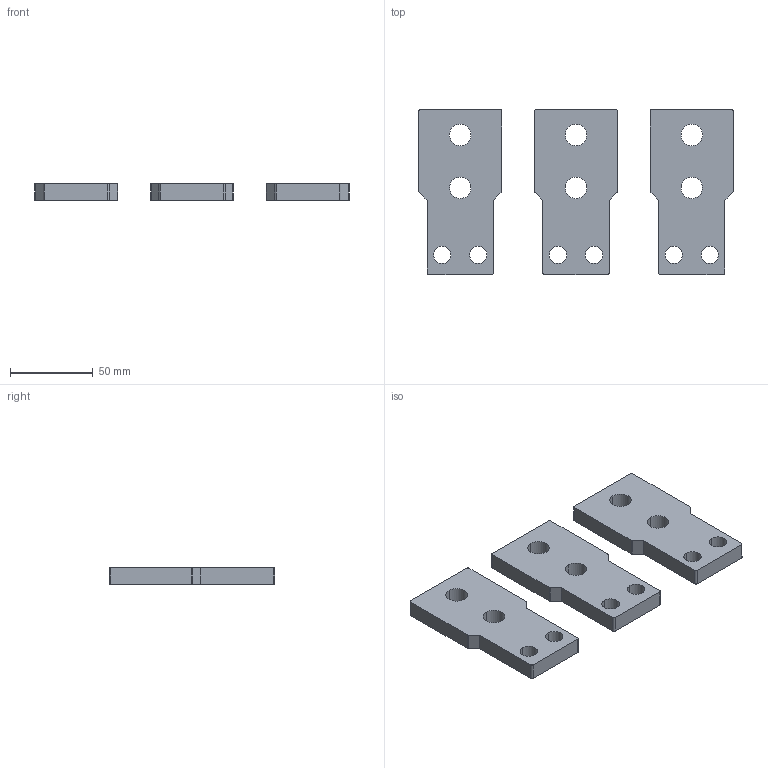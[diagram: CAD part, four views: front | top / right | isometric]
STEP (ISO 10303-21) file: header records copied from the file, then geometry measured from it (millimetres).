
FILE_DESCRIPTION (( 'STEP AP214' ), '1' );
FILE_NAME ('1250 3 麠蕻 碪殥蠈.STEP', '2026-05-21T12:04:19', ( '' ), ( '' ), 'SwSTEP 2.0', 'SolidWorks 2024', '' );
FILE_SCHEMA (( 'AUTOMOTIVE_DESIGN' ));
Length unit declared in the file: millimetre
Products named in the file (2): 1250 3 шины вместе; TGM1NE-GP-1250
Assembly tree (3 placements, depth 2):
  1250 3 шины вместе
    TGM1NE-GP-1250  x3
Bounding box: 190 x 100 x 10 mm (x, y, z)
Volume: 122563.6 mm3; surface area: 37712.5 mm2
Topology: 3 solids, 3 shells, 72 faces, 198 edges, 132 vertices
Faces by surface type: cylinder 42, plane 30
Entity records: 865 total; most frequent: DIRECTION 154, CARTESIAN_POINT 140, ORIENTED_EDGE 132, EDGE_CURVE 66, AXIS2_PLACEMENT_3D 58, VERTEX_POINT 44, VECTOR 38, LINE 38
